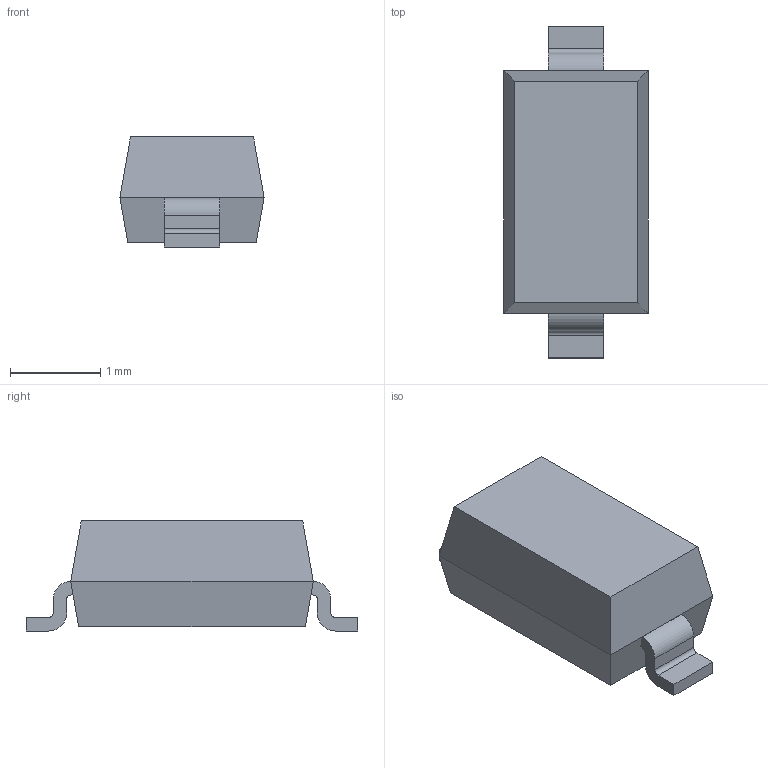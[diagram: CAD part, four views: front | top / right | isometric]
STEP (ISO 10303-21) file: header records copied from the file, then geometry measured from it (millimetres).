
FILE_DESCRIPTION(/* description */ ('STEP AP242 Edition 2','CAx-IF Rec.Pracs.---Representation and Presentation of Product Manufacturing Information (PMI)---4.0---2014-10-13','CAx-IF Rec.Pracs.---3D Tessellated Geometry---0.4---2014-09-14','2;1','CAx-IF Rec.Pracs.---User Defined Attributes---1.5---2016-08-15'),/* implementation_level */ '2;1');
FILE_NAME(/* name */ 'Assembly 1 - SOD-123_L2.8-W1.8-LS3.7-RD~SOD-123_L2.8-W1.8-LS3.7-RD~nxQB',/* time_stamp */ '2026-04-02T09:55:20Z',/* author */ (''),/* organization */ (''),/* preprocessor_version */ 'ST-DEVELOPER v20',/* originating_system */ 'ONSHAPE BY PTC INC, 1.212',/* authorisation */ ' ');
FILE_SCHEMA (('AP242_MANAGED_MODEL_BASED_3D_ENGINEERING_MIM_LF { 1 0 10303 442 3 1 4 }'));
Length unit declared in the file: metre
Products named in the file (1): SOD-123_L2.8-W1.8-LS3.7-RD~SOD-123_L2.8-W1.8-LS3.7-RD~nxQB
Bounding box: 1.6 x 3.68 x 1.22 mm (x, y, z)
Volume: 4.7 mm3; surface area: 19.1 mm2
Topology: 1 solids, 1 shells, 93 faces, 245 edges, 162 vertices
Faces by surface type: plane 71, cylinder 16, bspline 5, sphere 1
Entity records: 3439 total; most frequent: CARTESIAN_POINT 903, ORIENTED_EDGE 484, DIRECTION 434, EDGE_CURVE 242, LINE 188, VECTOR 188, VERTEX_POINT 160, AXIS2_PLACEMENT_3D 123
